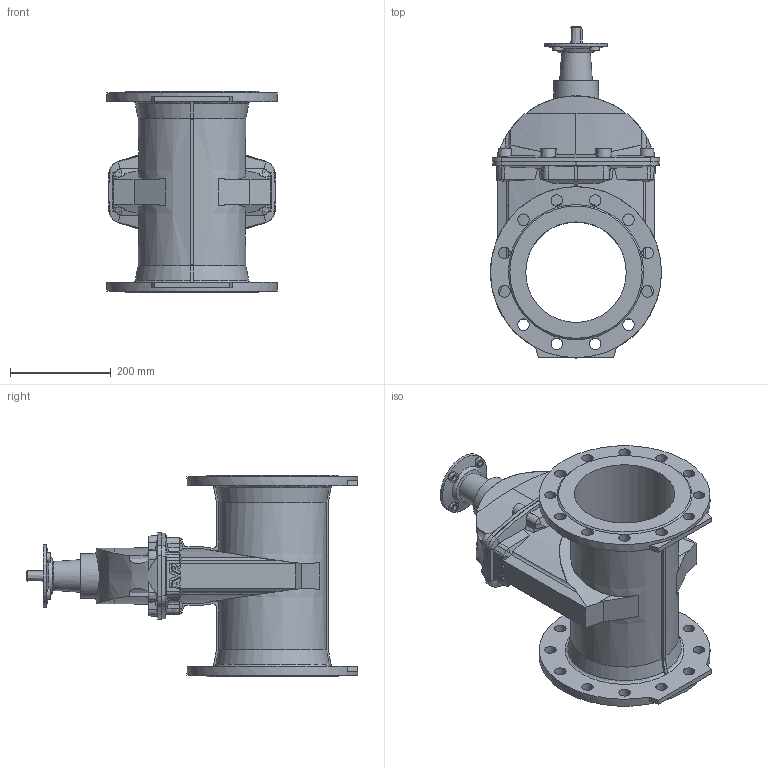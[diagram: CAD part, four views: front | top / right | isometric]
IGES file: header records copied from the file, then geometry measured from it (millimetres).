
Start section: SolidWorks IGES file using analytic representation for surfaces
Global section: file name: \\avksan2\techshare\PBM outline export from Enovia\O_15_72_DN200_X1XXX099_AA0.igs; native system: SolidWorks 2012; preprocessor: SolidWorks 2012; author: pbm; date: 170310.095721; units: inch
Bounding box: 340 x 660 x 400 mm (x, y, z)
Surface area: 1079595 mm2 (no closed solid volume)
Topology: 0 solids, 0 shells, 401 faces, 2230 edges, 2129 vertices
Faces by surface type: revolution 228, bspline 173
